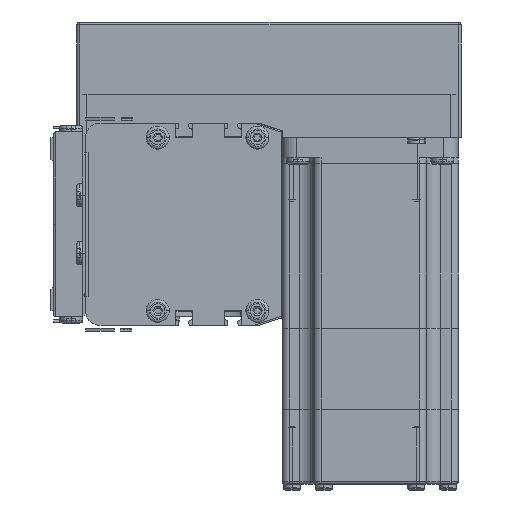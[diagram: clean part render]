
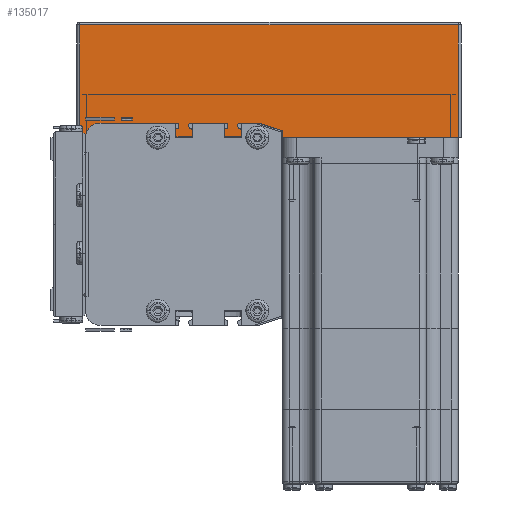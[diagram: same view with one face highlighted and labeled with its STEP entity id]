
A CAD part, left-side view. The second image highlights one B-rep face of the part: STEP entity #135017.
In plain terms, the highlighted planar face has unit normal (-1, 0, 0) as drawn and (0, 1, 0) by its records, which use the part's own axes.
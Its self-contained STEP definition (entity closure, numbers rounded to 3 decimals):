
#3868 = CARTESIAN_POINT ( 'NONE',  ( 0., 62., 0. ) ) ;
#3870 = LINE ( 'NONE', #3868, #6083 ) ;
#6083 = VECTOR ( 'NONE', #6090, 1000. ) ;
#6090 = DIRECTION ( 'NONE',  ( -1., 0., 0. ) ) ;
#6253 = CARTESIAN_POINT ( 'NONE',  ( 1., 62., 0. ) ) ;
#53014 = CARTESIAN_POINT ( 'NONE',  ( 132., 62., 0. ) ) ;
#55819 = DIRECTION ( 'NONE',  ( 1., 0., 0. ) ) ;
#55822 = CARTESIAN_POINT ( 'NONE',  ( 0., 62., 39. ) ) ;
#55823 = LINE ( 'NONE', #55822, #56235 ) ;
#56023 = PLANE ( 'NONE',  #56033 ) ;
#56033 = AXIS2_PLACEMENT_3D ( 'NONE', #56426, #56424, #56421 ) ;
#56221 = DIRECTION ( 'NONE',  ( 0., 0., 1. ) ) ;
#56222 = VECTOR ( 'NONE', #56221, 1000. ) ;
#56225 = CARTESIAN_POINT ( 'NONE',  ( 1., 62., 40. ) ) ;
#56226 = LINE ( 'NONE', #56225, #56222 ) ;
#56230 = FACE_OUTER_BOUND ( 'NONE', #135903, .T. ) ;
#56235 = VECTOR ( 'NONE', #55819, 1000. ) ;
#56421 = DIRECTION ( 'NONE',  ( 0., 0., -1. ) ) ;
#56424 = DIRECTION ( 'NONE',  ( 0., -1., 0. ) ) ;
#56426 = CARTESIAN_POINT ( 'NONE',  ( 0., 62., 40. ) ) ;
#56439 = CARTESIAN_POINT ( 'NONE',  ( 132., 62., 39. ) ) ;
#56548 = DIRECTION ( 'NONE',  ( 0., 0., -1. ) ) ;
#56549 = VECTOR ( 'NONE', #56548, 1000. ) ;
#56553 = CARTESIAN_POINT ( 'NONE',  ( 132., 62., 40. ) ) ;
#56556 = LINE ( 'NONE', #56553, #56549 ) ;
#58251 = CARTESIAN_POINT ( 'NONE',  ( 1., 62., 39. ) ) ;
#133371 = EDGE_CURVE ( 'NONE', #134463, #133378, #3870, .T. ) ;
#133378 = VERTEX_POINT ( 'NONE', #6253 ) ;
#134463 = VERTEX_POINT ( 'NONE', #53014 ) ;
#134968 = EDGE_CURVE ( 'NONE', #135964, #135019, #55823, .T. ) ;
#134995 = EDGE_CURVE ( 'NONE', #133378, #135964, #56226, .T. ) ;
#135010 = ORIENTED_EDGE ( 'NONE', *, *, #134968, .T. ) ;
#135017 = ADVANCED_FACE ( 'NONE', ( #56230 ), #56023, .F. ) ;
#135019 = VERTEX_POINT ( 'NONE', #56439 ) ;
#135056 = ORIENTED_EDGE ( 'NONE', *, *, #135138, .T. ) ;
#135138 = EDGE_CURVE ( 'NONE', #135019, #134463, #56556, .T. ) ;
#135903 = EDGE_LOOP ( 'NONE', ( #135010, #135056, #136095, #136376 ) ) ;
#135964 = VERTEX_POINT ( 'NONE', #58251 ) ;
#136095 = ORIENTED_EDGE ( 'NONE', *, *, #133371, .T. ) ;
#136376 = ORIENTED_EDGE ( 'NONE', *, *, #134995, .T. ) ;
